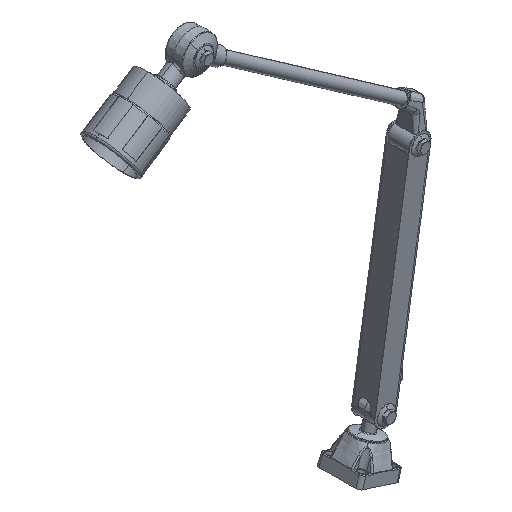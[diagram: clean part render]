
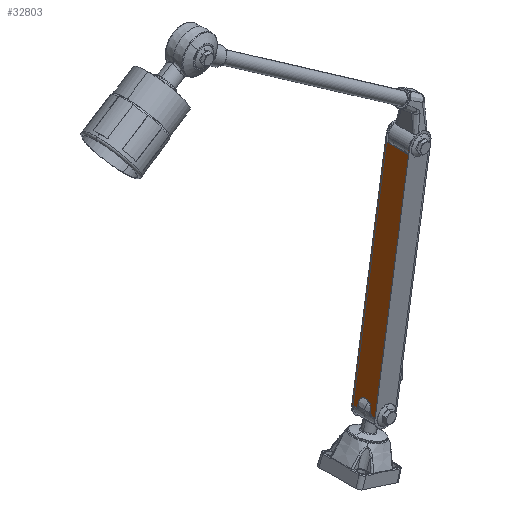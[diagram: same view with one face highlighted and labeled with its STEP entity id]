
A CAD part, isometric view. The second image highlights one B-rep face of the part: STEP entity #32803.
In plain terms, the highlighted planar face has unit normal (-0.988, 0, 0.156).
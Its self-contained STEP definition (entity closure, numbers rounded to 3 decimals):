
#6022=DIRECTION('',(-0.156,0.,-0.988));
#6023=VECTOR('',#6022,0.256);
#6024=CARTESIAN_POINT('',(16.077,3.407,73.673));
#6025=LINE('',#6024,#6023);
#6030=DIRECTION('',(-0.156,0.,-0.988));
#6031=VECTOR('',#6030,0.02);
#6032=CARTESIAN_POINT('',(14.165,3.407,61.599));
#6033=LINE('',#6032,#6031);
#6110=CARTESIAN_POINT('',(14.208,4.018,61.871));
#6111=DIRECTION('',(-0.988,0.,0.156));
#6112=DIRECTION('',(0.,-1.,0.));
#6113=AXIS2_PLACEMENT_3D('',#6110,#6111,#6112);
#6115=CARTESIAN_POINT('',(14.208,4.018,61.871));
#6116=DIRECTION('',(-0.988,0.,0.156));
#6117=DIRECTION('',(0.156,0.,0.988));
#6118=AXIS2_PLACEMENT_3D('',#6115,#6116,#6117);
#6120=DIRECTION('',(0.156,0.,0.988));
#6121=VECTOR('',#6120,0.256);
#6122=CARTESIAN_POINT('',(16.037,4.628,73.42));
#6123=LINE('',#6122,#6121);
#6144=DIRECTION('',(0.156,0.,0.988));
#6145=VECTOR('',#6144,0.02);
#6146=CARTESIAN_POINT('',(14.162,4.628,61.58));
#6147=LINE('',#6146,#6145);
#6208=DIRECTION('',(0.,1.,0.));
#6209=VECTOR('',#6208,1.22);
#6210=CARTESIAN_POINT('',(16.037,3.407,73.42));
#6211=LINE('',#6210,#6209);
#6224=DIRECTION('',(0.,-1.,0.));
#6225=VECTOR('',#6224,0.276);
#6226=CARTESIAN_POINT('',(14.165,4.628,61.599));
#6227=LINE('',#6226,#6225);
#6228=DIRECTION('',(0.156,0.,0.988));
#6229=VECTOR('',#6228,0.276);
#6230=CARTESIAN_POINT('',(14.165,4.352,61.599));
#6231=LINE('',#6230,#6229);
#6248=DIRECTION('',(-0.156,0.,-0.988));
#6249=VECTOR('',#6248,0.276);
#6250=CARTESIAN_POINT('',(14.208,3.683,61.871));
#6251=LINE('',#6250,#6249);
#6260=DIRECTION('',(0.,-1.,0.));
#6261=VECTOR('',#6260,0.276);
#6262=CARTESIAN_POINT('',(14.165,3.683,61.599));
#6263=LINE('',#6262,#6261);
#6264=DIRECTION('',(0.,1.,0.));
#6265=VECTOR('',#6264,0.039);
#6266=CARTESIAN_POINT('',(16.077,4.628,73.673));
#6267=LINE('',#6266,#6265);
#6296=DIRECTION('',(-0.156,0.,-0.988));
#6297=VECTOR('',#6296,12.244);
#6298=CARTESIAN_POINT('',(16.077,4.667,73.673));
#6299=LINE('',#6298,#6297);
#6339=DIRECTION('',(0.,-1.,0.));
#6340=VECTOR('',#6339,0.039);
#6341=CARTESIAN_POINT('',(14.162,4.667,61.58));
#6342=LINE('',#6341,#6340);
#6665=DIRECTION('',(0.,-1.,0.));
#6666=VECTOR('',#6665,0.039);
#6667=CARTESIAN_POINT('',(14.162,3.407,61.58));
#6668=LINE('',#6667,#6666);
#6679=DIRECTION('',(0.156,0.,0.988));
#6680=VECTOR('',#6679,12.244);
#6681=CARTESIAN_POINT('',(14.162,3.368,61.58));
#6682=LINE('',#6681,#6680);
#6741=DIRECTION('',(0.,1.,0.));
#6742=VECTOR('',#6741,0.039);
#6743=CARTESIAN_POINT('',(16.077,3.368,73.673));
#6744=LINE('',#6743,#6742);
#19975=CARTESIAN_POINT('',(16.037,4.628,73.42));
#19976=VERTEX_POINT('',#19975);
#19977=CARTESIAN_POINT('',(16.077,4.628,73.673));
#19978=VERTEX_POINT('',#19977);
#19995=CARTESIAN_POINT('',(14.162,4.628,61.58));
#19996=VERTEX_POINT('',#19995);
#19997=CARTESIAN_POINT('',(14.165,4.628,61.599));
#19998=VERTEX_POINT('',#19997);
#20021=CARTESIAN_POINT('',(16.037,3.407,73.42));
#20022=VERTEX_POINT('',#20021);
#20023=CARTESIAN_POINT('',(16.077,3.407,73.673));
#20024=VERTEX_POINT('',#20023);
#20025=CARTESIAN_POINT('',(16.077,3.368,73.673));
#20026=VERTEX_POINT('',#20025);
#20027=CARTESIAN_POINT('',(14.162,3.368,61.58));
#20028=VERTEX_POINT('',#20027);
#20029=CARTESIAN_POINT('',(14.162,3.407,61.58));
#20030=VERTEX_POINT('',#20029);
#20031=CARTESIAN_POINT('',(14.165,3.407,61.599));
#20032=VERTEX_POINT('',#20031);
#20033=CARTESIAN_POINT('',(14.165,3.683,61.599));
#20034=VERTEX_POINT('',#20033);
#20035=CARTESIAN_POINT('',(14.208,3.683,61.871));
#20036=VERTEX_POINT('',#20035);
#20037=CARTESIAN_POINT('',(14.26,4.018,62.202));
#20038=VERTEX_POINT('',#20037);
#20039=CARTESIAN_POINT('',(14.208,4.352,61.871));
#20040=VERTEX_POINT('',#20039);
#20041=CARTESIAN_POINT('',(14.165,4.352,61.599));
#20042=VERTEX_POINT('',#20041);
#20043=CARTESIAN_POINT('',(14.162,4.667,61.58));
#20044=VERTEX_POINT('',#20043);
#20045=CARTESIAN_POINT('',(16.077,4.667,73.673));
#20046=VERTEX_POINT('',#20045);
#32764=CARTESIAN_POINT('',(15.119,4.018,67.626));
#32765=DIRECTION('',(0.988,0.,-0.156));
#32766=DIRECTION('',(0.,-1.,0.));
#32767=AXIS2_PLACEMENT_3D('',#32764,#32765,#32766);
#32768=PLANE('',#32767);
#32770=ORIENTED_EDGE('',*,*,#32769,.F.);
#32772=ORIENTED_EDGE('',*,*,#32771,.F.);
#32773=ORIENTED_EDGE('',*,*,#32708,.F.);
#32775=ORIENTED_EDGE('',*,*,#32774,.F.);
#32777=ORIENTED_EDGE('',*,*,#32776,.F.);
#32779=ORIENTED_EDGE('',*,*,#32778,.F.);
#32780=ORIENTED_EDGE('',*,*,#32716,.F.);
#32782=ORIENTED_EDGE('',*,*,#32781,.F.);
#32784=ORIENTED_EDGE('',*,*,#32783,.F.);
#32786=ORIENTED_EDGE('',*,*,#32785,.T.);
#32788=ORIENTED_EDGE('',*,*,#32787,.T.);
#32790=ORIENTED_EDGE('',*,*,#32789,.F.);
#32792=ORIENTED_EDGE('',*,*,#32791,.F.);
#32794=ORIENTED_EDGE('',*,*,#32793,.F.);
#32796=ORIENTED_EDGE('',*,*,#32795,.F.);
#32798=ORIENTED_EDGE('',*,*,#32797,.F.);
#32800=ORIENTED_EDGE('',*,*,#32799,.F.);
#32801=EDGE_LOOP('',(#32770,#32772,#32773,#32775,#32777,#32779,#32780,#32782,
#32784,#32786,#32788,#32790,#32792,#32794,#32796,#32798,#32800));
#32802=FACE_OUTER_BOUND('',#32801,.F.);
#32803=ADVANCED_FACE('',(#32802),#32768,.F.);
#6114=CIRCLE('',#6113,0.335);
#6119=CIRCLE('',#6118,0.335);
#32708=EDGE_CURVE('',#20024,#20022,#6025,.T.);
#32716=EDGE_CURVE('',#20032,#20030,#6033,.T.);
#32769=EDGE_CURVE('',#19976,#19978,#6123,.T.);
#32771=EDGE_CURVE('',#20022,#19976,#6211,.T.);
#32774=EDGE_CURVE('',#20026,#20024,#6744,.T.);
#32776=EDGE_CURVE('',#20028,#20026,#6682,.T.);
#32778=EDGE_CURVE('',#20030,#20028,#6668,.T.);
#32781=EDGE_CURVE('',#20034,#20032,#6263,.T.);
#32783=EDGE_CURVE('',#20036,#20034,#6251,.T.);
#32785=EDGE_CURVE('',#20036,#20038,#6114,.T.);
#32787=EDGE_CURVE('',#20038,#20040,#6119,.T.);
#32789=EDGE_CURVE('',#20042,#20040,#6231,.T.);
#32791=EDGE_CURVE('',#19998,#20042,#6227,.T.);
#32793=EDGE_CURVE('',#19996,#19998,#6147,.T.);
#32795=EDGE_CURVE('',#20044,#19996,#6342,.T.);
#32797=EDGE_CURVE('',#20046,#20044,#6299,.T.);
#32799=EDGE_CURVE('',#19978,#20046,#6267,.T.);
